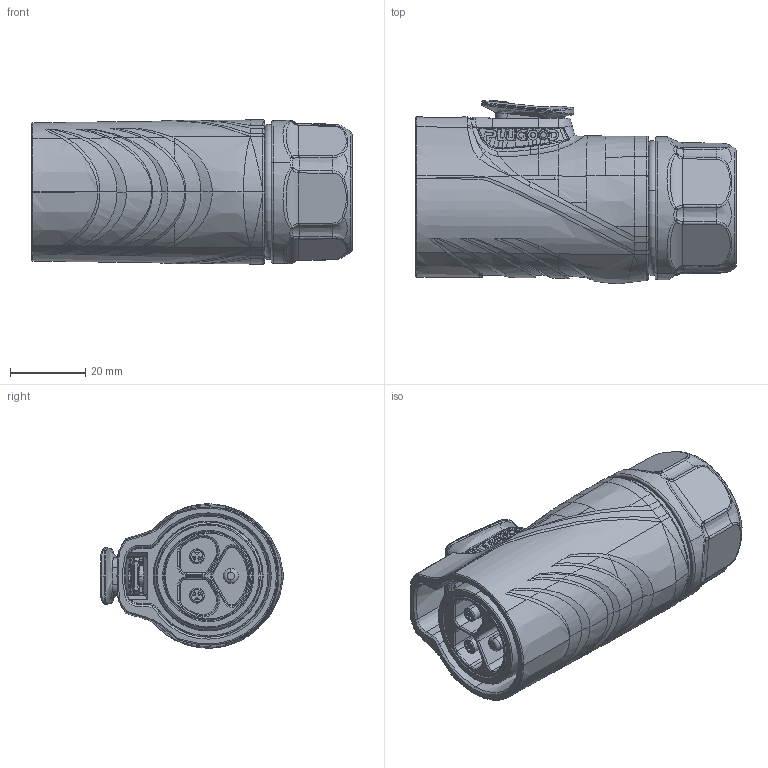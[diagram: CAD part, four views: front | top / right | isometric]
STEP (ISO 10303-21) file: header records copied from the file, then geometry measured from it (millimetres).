
FILE_DESCRIPTION (( 'STEP AP203' ), '1' );
FILE_NAME ('PLG28 3郋眻芛脣芛.STEP', '2025-08-08T09:48:05', ( '' ), ( '' ), 'SwSTEP 2.0', 'SolidWorks 2015', '' );
FILE_SCHEMA (( 'CONFIG_CONTROL_DESIGN' ));
Products named in the file (1): PLG28 3郋眻芛脣芛
Bounding box: 85 x 48.66 x 38.3 mm (x, y, z)
Volume: 85373.1 mm3; surface area: 28731.1 mm2
Topology: 5 solids, 8 shells, 1482 faces, 3875 edges, 2419 vertices
Faces by surface type: bspline 600, cylinder 316, plane 311, torus 164, cone 69, sphere 22
Entity records: 132792 total; most frequent: CARTESIAN_POINT 101664, ORIENTED_EDGE 7722, DIRECTION 4640, EDGE_CURVE 3861, VERTEX_POINT 2419, AXIS2_PLACEMENT_3D 1826, B_SPLINE_CURVE_WITH_KNOTS 1811, EDGE_LOOP 1534
